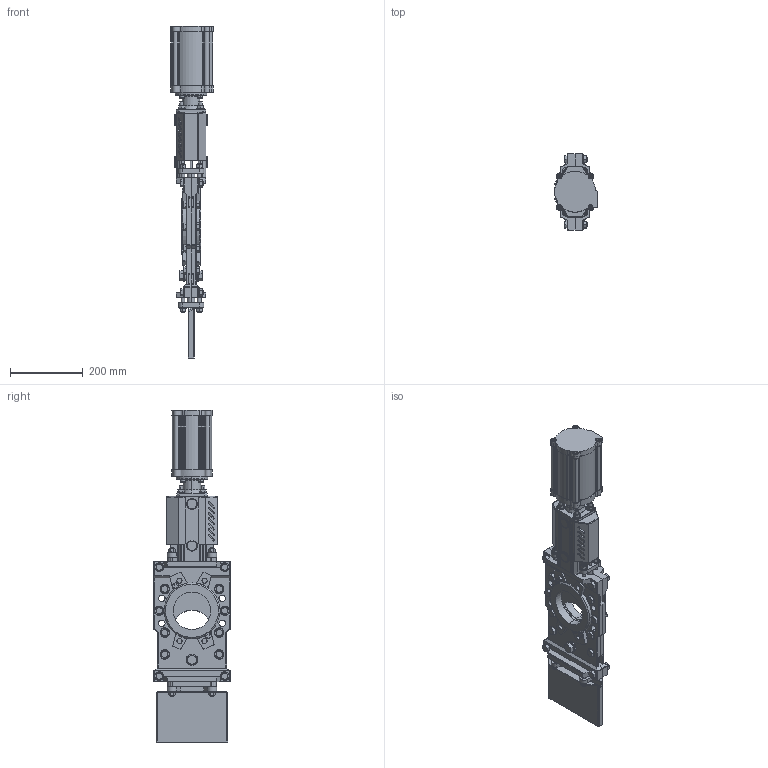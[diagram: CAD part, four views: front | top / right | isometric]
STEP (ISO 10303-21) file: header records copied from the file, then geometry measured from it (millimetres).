
FILE_DESCRIPTION(('STEP AP203'),'1');
FILE_NAME('F:/Alexander/CYLSAM/2D-3D/HG/100/HG-DN100-EC.stp','2012-11-28T11:50:59',(' '),(' '),'Spatial InterOp 3D',' ',' ');
FILE_SCHEMA(('CONFIG_CONTROL_DESIGN'));
Length unit declared in the file: millimetre
Products named in the file (5): 1; 2; 3; 4; 5
Bounding box: 118 x 210 x 913.49 mm (x, y, z)
Volume: 3907632.2 mm3; surface area: 1125429.8 mm2
Topology: 5 solids, 41 shells, 2930 faces, 7272 edges, 4599 vertices
Faces by surface type: cylinder 1140, plane 1089, cone 570, torus 115, sphere 16
Entity records: 89450 total; most frequent: CARTESIAN_POINT 19234, DIRECTION 15454, ORIENTED_EDGE 14448, EDGE_CURVE 7224, AXIS2_PLACEMENT_3D 6203, VERTEX_POINT 4599, EDGE_LOOP 3347, CIRCLE 3206
